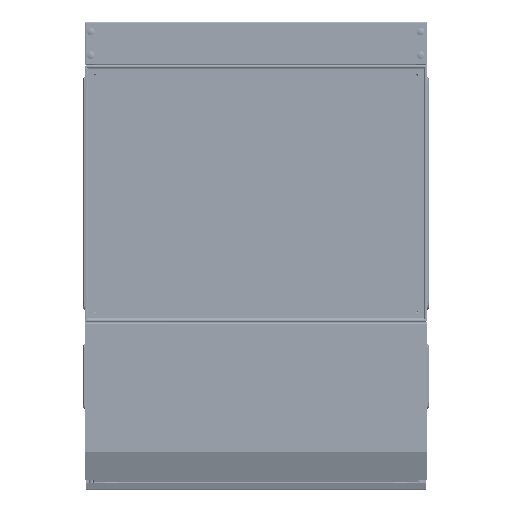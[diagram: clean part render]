
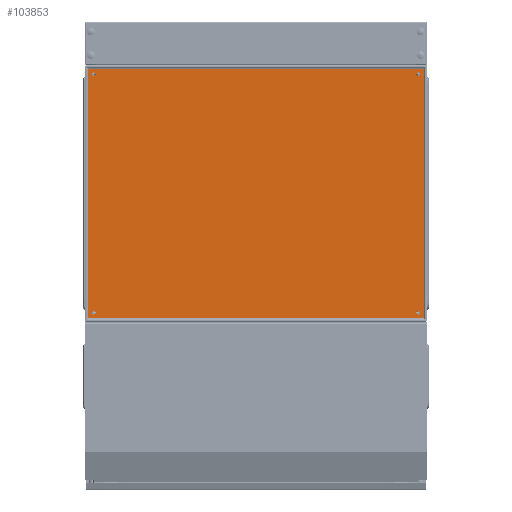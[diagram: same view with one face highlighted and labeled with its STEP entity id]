
A CAD part, front view. The second image highlights one B-rep face of the part: STEP entity #103853.
In plain terms, the highlighted planar face has unit normal (0, -1, 0).
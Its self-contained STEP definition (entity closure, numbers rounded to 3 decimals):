
#397 = CARTESIAN_POINT ( 'NONE',  ( 379., -1.5, -275. ) ) ;
#3043 = CARTESIAN_POINT ( 'NONE',  ( -379., -1.5, -275. ) ) ;
#6757 = EDGE_CURVE ( 'NONE', #122563, #37217, #204450, .T. ) ;
#10422 = ORIENTED_EDGE ( 'NONE', *, *, #38965, .F. ) ;
#13613 = CARTESIAN_POINT ( 'NONE',  ( 379., -1.5, 283. ) ) ;
#17348 = ORIENTED_EDGE ( 'NONE', *, *, #6757, .F. ) ;
#17803 = CARTESIAN_POINT ( 'NONE',  ( -391.5, -1.5, -291.5 ) ) ;
#20785 = DIRECTION ( 'NONE',  ( 0., 0., 1. ) ) ;
#23889 = EDGE_CURVE ( 'NONE', #133948, #133948, #91259, .T. ) ;
#28383 = EDGE_LOOP ( 'NONE', ( #29745 ) ) ;
#29745 = ORIENTED_EDGE ( 'NONE', *, *, #78738, .F. ) ;
#34001 = ORIENTED_EDGE ( 'NONE', *, *, #23889, .F. ) ;
#35277 = DIRECTION ( 'NONE',  ( 0., 0., 1. ) ) ;
#37217 = VERTEX_POINT ( 'NONE', #52523 ) ;
#38965 = EDGE_CURVE ( 'NONE', #132363, #122563, #177907, .T. ) ;
#39372 = EDGE_LOOP ( 'NONE', ( #34001 ) ) ;
#41804 = VECTOR ( 'NONE', #128508, 1000. ) ;
#44839 = LINE ( 'NONE', #197492, #107009 ) ;
#45060 = VECTOR ( 'NONE', #53962, 1000. ) ;
#45790 = CARTESIAN_POINT ( 'NONE',  ( -391.5, -1.5, 291.5 ) ) ;
#47091 = ORIENTED_EDGE ( 'NONE', *, *, #109414, .F. ) ;
#47525 = AXIS2_PLACEMENT_3D ( 'NONE', #81371, #64831, #131895 ) ;
#48198 = CIRCLE ( 'NONE', #86845, 4. ) ;
#49343 = VERTEX_POINT ( 'NONE', #70191 ) ;
#52523 = CARTESIAN_POINT ( 'NONE',  ( 391.5, -1.5, 291.5 ) ) ;
#52853 = DIRECTION ( 'NONE',  ( 0., 1., 0. ) ) ;
#53962 = DIRECTION ( 'NONE',  ( 1., 0., 0. ) ) ;
#54588 = VECTOR ( 'NONE', #151871, 1000. ) ;
#58034 = CIRCLE ( 'NONE', #47525, 4. ) ;
#64831 = DIRECTION ( 'NONE',  ( 0., -1., 0. ) ) ;
#70191 = CARTESIAN_POINT ( 'NONE',  ( -379., -1.5, 283. ) ) ;
#77238 = DIRECTION ( 'NONE',  ( 0., 0., 1. ) ) ;
#77843 = DIRECTION ( 'NONE',  ( 0., 0., -1. ) ) ;
#78295 = EDGE_CURVE ( 'NONE', #214153, #132363, #168376, .T. ) ;
#78738 = EDGE_CURVE ( 'NONE', #167435, #167435, #58034, .T. ) ;
#78890 = EDGE_CURVE ( 'NONE', #119123, #119123, #48198, .T. ) ;
#79053 = CARTESIAN_POINT ( 'NONE',  ( -391.5, -1.5, -291.5 ) ) ;
#81371 = CARTESIAN_POINT ( 'NONE',  ( 379., -1.5, -279. ) ) ;
#82435 = DIRECTION ( 'NONE',  ( 0., 0., 1. ) ) ;
#86845 = AXIS2_PLACEMENT_3D ( 'NONE', #171324, #101120, #20785 ) ;
#91259 = CIRCLE ( 'NONE', #143917, 4. ) ;
#101120 = DIRECTION ( 'NONE',  ( 0., -1., 0. ) ) ;
#101304 = CARTESIAN_POINT ( 'NONE',  ( -391.5, -1.5, 291.5 ) ) ;
#102284 = ORIENTED_EDGE ( 'NONE', *, *, #78295, .F. ) ;
#103420 = FACE_BOUND ( 'NONE', #39372, .T. ) ;
#103853 = ADVANCED_FACE ( 'NONE', ( #103420, #123162, #122056, #190129, #120979 ), #136355, .F. ) ;
#104672 = EDGE_LOOP ( 'NONE', ( #201704 ) ) ;
#107009 = VECTOR ( 'NONE', #77843, 1000. ) ;
#109414 = EDGE_CURVE ( 'NONE', #49343, #49343, #147518, .T. ) ;
#110104 = EDGE_LOOP ( 'NONE', ( #165169, #17348, #10422, #102284 ) ) ;
#113135 = EDGE_LOOP ( 'NONE', ( #47091 ) ) ;
#116503 = CARTESIAN_POINT ( 'NONE',  ( -379., -1.5, -279. ) ) ;
#119123 = VERTEX_POINT ( 'NONE', #13613 ) ;
#120979 = FACE_OUTER_BOUND ( 'NONE', #110104, .T. ) ;
#122056 = FACE_BOUND ( 'NONE', #104672, .T. ) ;
#122563 = VERTEX_POINT ( 'NONE', #45790 ) ;
#123162 = FACE_BOUND ( 'NONE', #28383, .T. ) ;
#128508 = DIRECTION ( 'NONE',  ( 0., 0., 1. ) ) ;
#131895 = DIRECTION ( 'NONE',  ( 0., 0., 1. ) ) ;
#132363 = VERTEX_POINT ( 'NONE', #213524 ) ;
#133948 = VERTEX_POINT ( 'NONE', #3043 ) ;
#136355 = PLANE ( 'NONE',  #164166 ) ;
#143917 = AXIS2_PLACEMENT_3D ( 'NONE', #116503, #215338, #82435 ) ;
#145202 = CARTESIAN_POINT ( 'NONE',  ( 391.5, -1.5, -291.5 ) ) ;
#147518 = CIRCLE ( 'NONE', #200031, 4. ) ;
#151148 = EDGE_CURVE ( 'NONE', #37217, #214153, #44839, .T. ) ;
#151755 = CARTESIAN_POINT ( 'NONE',  ( 391.5, -1.5, 291.5 ) ) ;
#151871 = DIRECTION ( 'NONE',  ( -1., 0., 0. ) ) ;
#164166 = AXIS2_PLACEMENT_3D ( 'NONE', #151755, #52853, #35277 ) ;
#165169 = ORIENTED_EDGE ( 'NONE', *, *, #151148, .F. ) ;
#167435 = VERTEX_POINT ( 'NONE', #397 ) ;
#168376 = LINE ( 'NONE', #17803, #54588 ) ;
#171324 = CARTESIAN_POINT ( 'NONE',  ( 379., -1.5, 279. ) ) ;
#177907 = LINE ( 'NONE', #79053, #41804 ) ;
#190129 = FACE_BOUND ( 'NONE', #113135, .T. ) ;
#197492 = CARTESIAN_POINT ( 'NONE',  ( 391.5, -1.5, -291.5 ) ) ;
#200031 = AXIS2_PLACEMENT_3D ( 'NONE', #209054, #210141, #77238 ) ;
#201704 = ORIENTED_EDGE ( 'NONE', *, *, #78890, .F. ) ;
#204450 = LINE ( 'NONE', #101304, #45060 ) ;
#209054 = CARTESIAN_POINT ( 'NONE',  ( -379., -1.5, 279. ) ) ;
#210141 = DIRECTION ( 'NONE',  ( 0., -1., 0. ) ) ;
#213524 = CARTESIAN_POINT ( 'NONE',  ( -391.5, -1.5, -291.5 ) ) ;
#214153 = VERTEX_POINT ( 'NONE', #145202 ) ;
#215338 = DIRECTION ( 'NONE',  ( 0., -1., 0. ) ) ;
